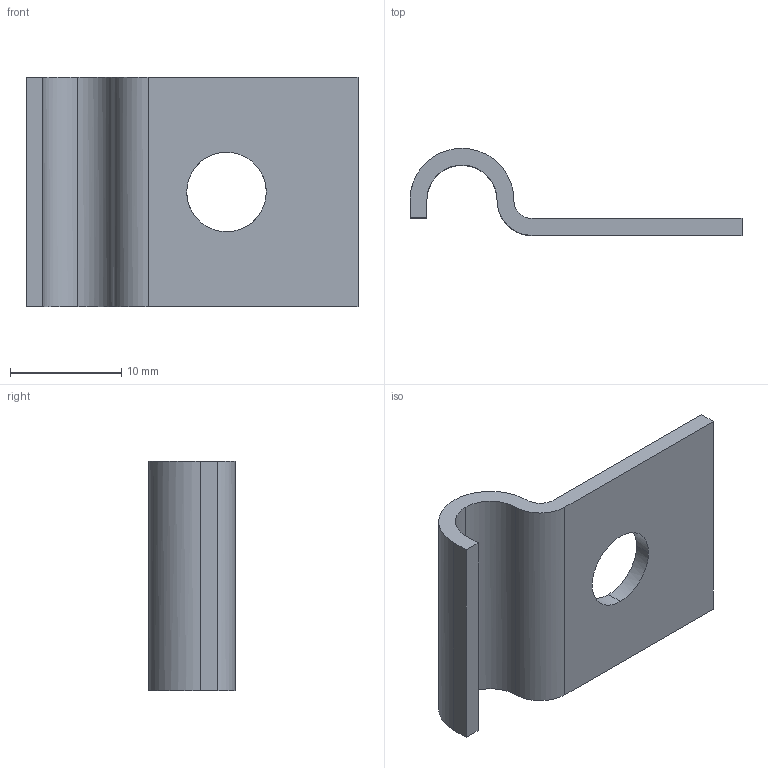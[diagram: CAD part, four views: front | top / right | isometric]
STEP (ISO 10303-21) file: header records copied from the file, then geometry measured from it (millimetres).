
FILE_DESCRIPTION(('TurboCAD Mac Pro'),'Build 980');
FILE_NAME('P2008.stp',' ',(''),(''),'ACIS Interop','IMSI','TurboCAD Mac Pro BY IMSI, INCORPORATED');
FILE_SCHEMA(('automotive_design'));
Length unit declared in the file: inch
Products named in the file (1): 1
Bounding box: 29.82 x 7.82 x 20.64 mm (x, y, z)
Volume: 1077.9 mm3; surface area: 1631.7 mm2
Topology: 1 solids, 1 shells, 18 faces, 48 edges, 32 vertices
Faces by surface type: bspline 10, plane 8
Entity records: 784 total; most frequent: CARTESIAN_POINT 229, ORIENTED_EDGE 96, EDGE_CURVE 48, DIRECTION 46, VERTEX_POINT 32, LINE 28, VECTOR 28, EDGE_LOOP 20
